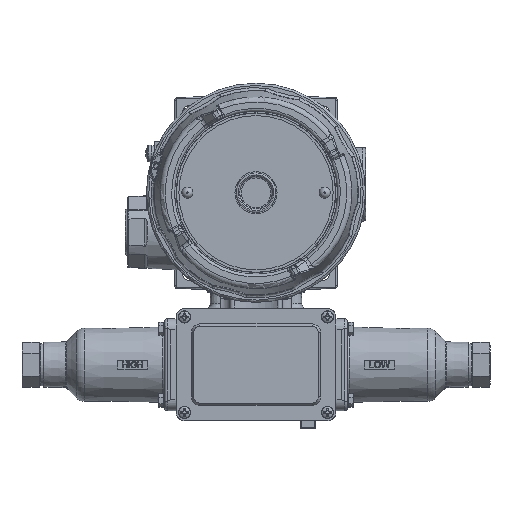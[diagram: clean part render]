
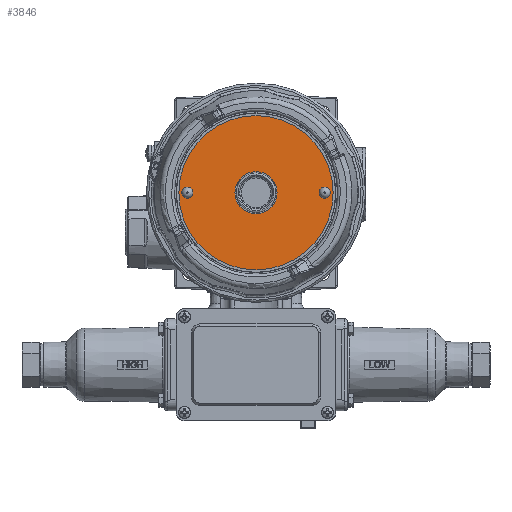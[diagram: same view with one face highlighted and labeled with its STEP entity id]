
A CAD part, top view. The second image highlights one B-rep face of the part: STEP entity #3846.
In plain terms, the highlighted planar face has unit normal (0, 0, 1).
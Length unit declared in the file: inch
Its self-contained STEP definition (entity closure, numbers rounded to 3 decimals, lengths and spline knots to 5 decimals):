
#916 = CIRCLE ( 'NONE', #42870, 1.71875 ) ;
#1046 = ORIENTED_EDGE ( 'NONE', *, *, #24448, .F. ) ;
#1639 = DIRECTION ( 'NONE',  ( 1., 0., 0. ) ) ;
#2166 = VERTEX_POINT ( 'NONE', #19470 ) ;
#2846 = DIRECTION ( 'NONE',  ( 0., 0., 1. ) ) ;
#3130 = PLANE ( 'NONE',  #36875 ) ;
#3450 = DIRECTION ( 'NONE',  ( 0., 0., 1. ) ) ;
#3846 = ADVANCED_FACE ( 'NONE', ( #53132, #31955, #8131, #41111 ), #3130, .T. ) ;
#4108 = CARTESIAN_POINT ( 'NONE',  ( -1.453, 0., 2.929 ) ) ;
#6296 = EDGE_LOOP ( 'NONE', ( #26503 ) ) ;
#7618 = EDGE_CURVE ( 'NONE', #9159, #9159, #50136, .T. ) ;
#8131 = FACE_BOUND ( 'NONE', #6296, .T. ) ;
#9159 = VERTEX_POINT ( 'NONE', #52447 ) ;
#10089 = EDGE_CURVE ( 'NONE', #10788, #10788, #916, .T. ) ;
#10788 = VERTEX_POINT ( 'NONE', #36523 ) ;
#11756 = CARTESIAN_POINT ( 'NONE',  ( 0., 0., 2.929 ) ) ;
#14452 = EDGE_CURVE ( 'NONE', #2166, #2166, #15418, .T. ) ;
#15418 = CIRCLE ( 'NONE', #17249, 0.078 ) ;
#17249 = AXIS2_PLACEMENT_3D ( 'NONE', #50388, #3450, #19923 ) ;
#19470 = CARTESIAN_POINT ( 'NONE',  ( 1.609, 0., 2.929 ) ) ;
#19923 = DIRECTION ( 'NONE',  ( 1., 0., 0. ) ) ;
#20439 = DIRECTION ( 'NONE',  ( 1., 0., 0. ) ) ;
#21410 = VERTEX_POINT ( 'NONE', #4108 ) ;
#23968 = DIRECTION ( 'NONE',  ( 0., 0., 1. ) ) ;
#24448 = EDGE_CURVE ( 'NONE', #21410, #21410, #31326, .T. ) ;
#26503 = ORIENTED_EDGE ( 'NONE', *, *, #7618, .F. ) ;
#28554 = CARTESIAN_POINT ( 'NONE',  ( 0., 0., 2.929 ) ) ;
#31326 = CIRCLE ( 'NONE', #34008, 0.078 ) ;
#31905 = DIRECTION ( 'NONE',  ( 0., 0., 1. ) ) ;
#31955 = FACE_BOUND ( 'NONE', #47636, .T. ) ;
#33877 = DIRECTION ( 'NONE',  ( 0., 0., 1. ) ) ;
#34008 = AXIS2_PLACEMENT_3D ( 'NONE', #39917, #23968, #1639 ) ;
#35797 = CARTESIAN_POINT ( 'NONE',  ( 0., 0., 2.929 ) ) ;
#36403 = DIRECTION ( 'NONE',  ( 1., 0., 0. ) ) ;
#36523 = CARTESIAN_POINT ( 'NONE',  ( 1.71875, 0., 2.929 ) ) ;
#36875 = AXIS2_PLACEMENT_3D ( 'NONE', #11756, #33877, #20439 ) ;
#37731 = EDGE_LOOP ( 'NONE', ( #43473 ) ) ;
#39917 = CARTESIAN_POINT ( 'NONE',  ( -1.531, 0., 2.929 ) ) ;
#40210 = EDGE_LOOP ( 'NONE', ( #1046 ) ) ;
#41111 = FACE_OUTER_BOUND ( 'NONE', #37731, .T. ) ;
#42870 = AXIS2_PLACEMENT_3D ( 'NONE', #35797, #31905, #43910 ) ;
#43012 = AXIS2_PLACEMENT_3D ( 'NONE', #28554, #2846, #36403 ) ;
#43473 = ORIENTED_EDGE ( 'NONE', *, *, #10089, .T. ) ;
#43910 = DIRECTION ( 'NONE',  ( 1., 0., 0. ) ) ;
#47636 = EDGE_LOOP ( 'NONE', ( #49706 ) ) ;
#49706 = ORIENTED_EDGE ( 'NONE', *, *, #14452, .F. ) ;
#50136 = CIRCLE ( 'NONE', #43012, 0.46875 ) ;
#50388 = CARTESIAN_POINT ( 'NONE',  ( 1.531, 0., 2.929 ) ) ;
#52447 = CARTESIAN_POINT ( 'NONE',  ( 0.46875, 0., 2.929 ) ) ;
#53132 = FACE_BOUND ( 'NONE', #40210, .T. ) ;
